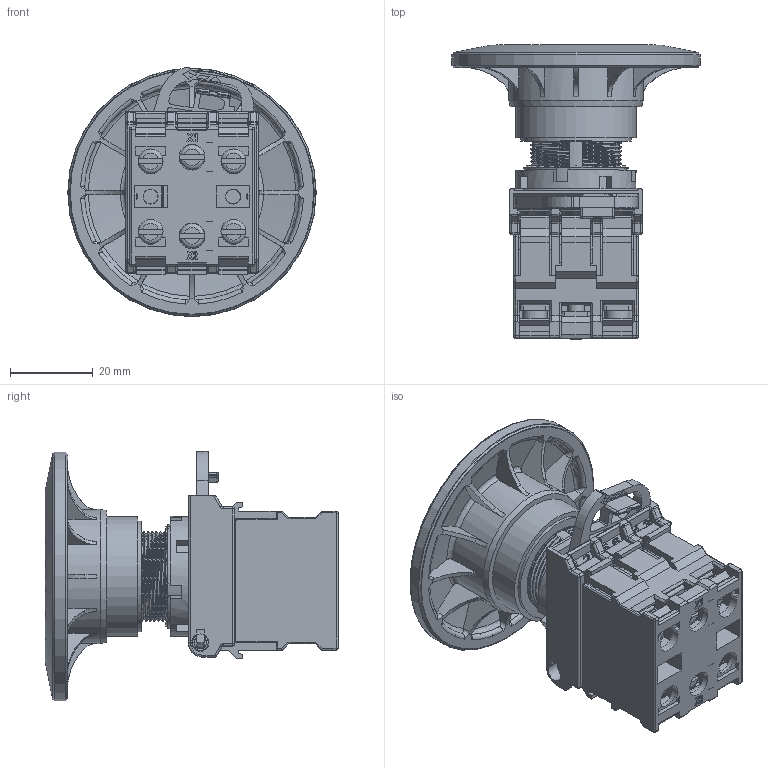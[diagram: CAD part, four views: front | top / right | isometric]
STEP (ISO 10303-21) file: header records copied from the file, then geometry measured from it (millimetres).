
FILE_DESCRIPTION(/* description */ ('CAx-IF Rec.Pracs.---Representation and Presentation of Product Manufacturing Information (PMI)---4.0---2014-10-13','CAx-IF Rec.Pracs.---3D Tessellated Geometry---0.4---2014-09-14','2;1'),/* implementation_level */ '2;1');
FILE_NAME(/* name */ '60蘑菇钮 _stp',/* time_stamp */ '2021-06-17T16:43:37+08:00',/* author */ (''),/* organization */ (''),/* preprocessor_version */ 'ST-DEVELOPER v16.7',/* originating_system */ $,/* authorisation */ $);
FILE_SCHEMA (('AP242_MANAGED_MODEL_BASED_3D_ENGINEERING_MIM_LF { 1 0 10303 442 20130219 1 4 }'));
Products named in the file (1): 60蘑菇钮 _stp
Bounding box: 60 x 71 x 60.22 mm (x, y, z)
Volume: 61709.6 mm3; surface area: 28805.4 mm2
Topology: 1 solids, 46 shells, 2393 faces, 6348 edges, 4056 vertices
Faces by surface type: plane 1599, cylinder 486, bspline 121, torus 109, sphere 66, cone 12
Full cylindrical faces by diameter (mm): 2 x1, 3.5 x2, 3.6 x1, 4 x2, 4.2 x3, 4.397 x2, 6 x10, 6.2 x2, 17 x1, 19 x1, 20.6 x1, 26.7 x1, 26.8 x1, 29 x2, 32.4 x1, 60 x1
Entity records: 95746 total; most frequent: CARTESIAN_POINT 20996, ORIENTED_EDGE 12428, DIRECTION 11245, EDGE_CURVE 6214, LINE 4461, VECTOR 4461, VERTEX_POINT 4008, AXIS2_PLACEMENT_3D 3392
